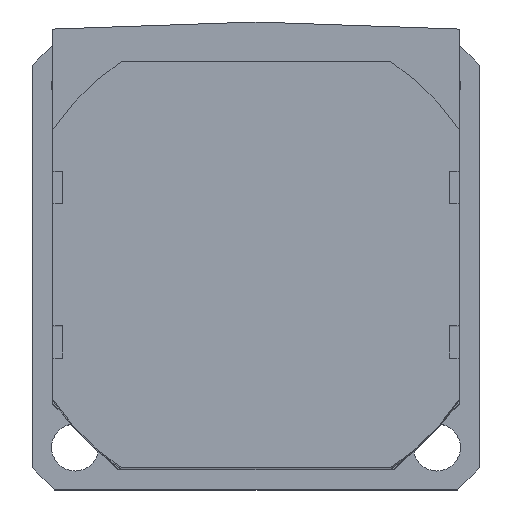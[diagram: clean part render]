
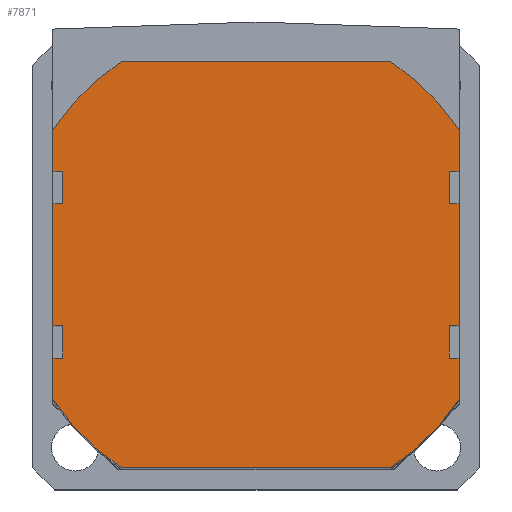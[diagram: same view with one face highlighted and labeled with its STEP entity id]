
A CAD part, top view. The second image highlights one B-rep face of the part: STEP entity #7871.
In plain terms, the highlighted planar face has unit normal (0, 0, 1).
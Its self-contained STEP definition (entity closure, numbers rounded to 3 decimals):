
#1866=LINE('',#11403,#9438);
#1867=LINE('',#11406,#9439);
#1868=LINE('',#11408,#9440);
#1869=LINE('',#11410,#9441);
#1870=LINE('',#11414,#9442);
#1871=LINE('',#11418,#9443);
#1872=LINE('',#11420,#9444);
#1873=LINE('',#11422,#9445);
#1874=LINE('',#11424,#9446);
#1875=LINE('',#11426,#9447);
#1876=LINE('',#11428,#9448);
#1877=LINE('',#11430,#9449);
#1878=LINE('',#11432,#9450);
#1879=LINE('',#11434,#9451);
#1880=LINE('',#11438,#9452);
#1881=LINE('',#11442,#9453);
#1882=LINE('',#11444,#9454);
#1883=LINE('',#11446,#9455);
#1884=LINE('',#11448,#9456);
#1885=LINE('',#11450,#9457);
#2583=VERTEX_POINT('',#11404);
#2584=VERTEX_POINT('',#11405);
#2585=VERTEX_POINT('',#11407);
#2586=VERTEX_POINT('',#11409);
#2587=VERTEX_POINT('',#11411);
#2588=VERTEX_POINT('',#11413);
#2589=VERTEX_POINT('',#11415);
#2590=VERTEX_POINT('',#11417);
#2591=VERTEX_POINT('',#11419);
#2592=VERTEX_POINT('',#11421);
#2593=VERTEX_POINT('',#11423);
#2594=VERTEX_POINT('',#11425);
#2595=VERTEX_POINT('',#11427);
#2596=VERTEX_POINT('',#11429);
#2597=VERTEX_POINT('',#11431);
#2598=VERTEX_POINT('',#11433);
#2599=VERTEX_POINT('',#11435);
#2600=VERTEX_POINT('',#11437);
#2601=VERTEX_POINT('',#11439);
#2602=VERTEX_POINT('',#11441);
#2603=VERTEX_POINT('',#11443);
#2604=VERTEX_POINT('',#11445);
#2605=VERTEX_POINT('',#11447);
#2606=VERTEX_POINT('',#11449);
#3202=CIRCLE('',#8530,30.);
#3203=CIRCLE('',#8531,30.);
#3204=CIRCLE('',#8532,30.);
#3205=CIRCLE('',#8533,30.);
#3804=EDGE_CURVE('',#2583,#2584,#1866,.T.);
#3805=EDGE_CURVE('',#2585,#2583,#1867,.T.);
#3806=EDGE_CURVE('',#2586,#2585,#1868,.T.);
#3807=EDGE_CURVE('',#2587,#2586,#1869,.T.);
#3808=EDGE_CURVE('',#2588,#2587,#3202,.T.);
#3809=EDGE_CURVE('',#2589,#2588,#1870,.T.);
#3810=EDGE_CURVE('',#2590,#2589,#3203,.T.);
#3811=EDGE_CURVE('',#2591,#2590,#1871,.T.);
#3812=EDGE_CURVE('',#2592,#2591,#1872,.T.);
#3813=EDGE_CURVE('',#2593,#2592,#1873,.T.);
#3814=EDGE_CURVE('',#2594,#2593,#1874,.T.);
#3815=EDGE_CURVE('',#2595,#2594,#1875,.T.);
#3816=EDGE_CURVE('',#2596,#2595,#1876,.T.);
#3817=EDGE_CURVE('',#2597,#2596,#1877,.T.);
#3818=EDGE_CURVE('',#2598,#2597,#1878,.T.);
#3819=EDGE_CURVE('',#2599,#2598,#1879,.T.);
#3820=EDGE_CURVE('',#2600,#2599,#3204,.T.);
#3821=EDGE_CURVE('',#2601,#2600,#1880,.T.);
#3822=EDGE_CURVE('',#2602,#2601,#3205,.T.);
#3823=EDGE_CURVE('',#2603,#2602,#1881,.T.);
#3824=EDGE_CURVE('',#2604,#2603,#1882,.T.);
#3825=EDGE_CURVE('',#2605,#2604,#1883,.T.);
#3826=EDGE_CURVE('',#2606,#2605,#1884,.T.);
#3827=EDGE_CURVE('',#2584,#2606,#1885,.T.);
#5072=ORIENTED_EDGE('',*,*,#3804,.F.);
#5073=ORIENTED_EDGE('',*,*,#3805,.F.);
#5074=ORIENTED_EDGE('',*,*,#3806,.F.);
#5075=ORIENTED_EDGE('',*,*,#3807,.F.);
#5076=ORIENTED_EDGE('',*,*,#3808,.F.);
#5077=ORIENTED_EDGE('',*,*,#3809,.F.);
#5078=ORIENTED_EDGE('',*,*,#3810,.F.);
#5079=ORIENTED_EDGE('',*,*,#3811,.F.);
#5080=ORIENTED_EDGE('',*,*,#3812,.F.);
#5081=ORIENTED_EDGE('',*,*,#3813,.F.);
#5082=ORIENTED_EDGE('',*,*,#3814,.F.);
#5083=ORIENTED_EDGE('',*,*,#3815,.F.);
#5084=ORIENTED_EDGE('',*,*,#3816,.F.);
#5085=ORIENTED_EDGE('',*,*,#3817,.F.);
#5086=ORIENTED_EDGE('',*,*,#3818,.F.);
#5087=ORIENTED_EDGE('',*,*,#3819,.F.);
#5088=ORIENTED_EDGE('',*,*,#3820,.F.);
#5089=ORIENTED_EDGE('',*,*,#3821,.F.);
#5090=ORIENTED_EDGE('',*,*,#3822,.F.);
#5091=ORIENTED_EDGE('',*,*,#3823,.F.);
#5092=ORIENTED_EDGE('',*,*,#3824,.F.);
#5093=ORIENTED_EDGE('',*,*,#3825,.F.);
#5094=ORIENTED_EDGE('',*,*,#3826,.F.);
#5095=ORIENTED_EDGE('',*,*,#3827,.F.);
#6781=EDGE_LOOP('',(#5072,#5073,#5074,#5075,#5076,#5077,#5078,#5079,#5080,
#5081,#5082,#5083,#5084,#5085,#5086,#5087,#5088,#5089,#5090,#5091,#5092,
#5093,#5094,#5095));
#7338=FACE_BOUND('',#6781,.T.);
#7871=ADVANCED_FACE('',(#7338),#9887,.T.);
#8529=AXIS2_PLACEMENT_3D('',#11402,#14628,$);
#8530=AXIS2_PLACEMENT_3D('',#11412,#14633,#14634);
#8531=AXIS2_PLACEMENT_3D('',#11416,#14636,#14637);
#8532=AXIS2_PLACEMENT_3D('',#11436,#14647,#14648);
#8533=AXIS2_PLACEMENT_3D('',#11440,#14650,#14651);
#9438=VECTOR('',#14629,1.);
#9439=VECTOR('',#14630,1.);
#9440=VECTOR('',#14631,1.);
#9441=VECTOR('',#14632,1.);
#9442=VECTOR('',#14635,1.);
#9443=VECTOR('',#14638,1.);
#9444=VECTOR('',#14639,1.);
#9445=VECTOR('',#14640,1.);
#9446=VECTOR('',#14641,1.);
#9447=VECTOR('',#14642,1.);
#9448=VECTOR('',#14643,1.);
#9449=VECTOR('',#14644,1.);
#9450=VECTOR('',#14645,1.);
#9451=VECTOR('',#14646,1.);
#9452=VECTOR('',#14649,1.);
#9453=VECTOR('',#14652,1.);
#9454=VECTOR('',#14653,1.);
#9455=VECTOR('',#14654,1.);
#9456=VECTOR('',#14655,1.);
#9457=VECTOR('',#14656,1.);
#9887=PLANE('',#8529);
#11402=CARTESIAN_POINT('',(0.,0.,73.5));
#11403=CARTESIAN_POINT('',(23.8,7.5,73.5));
#11404=CARTESIAN_POINT('',(23.8,7.5,73.5));
#11405=CARTESIAN_POINT('',(25.,7.5,73.5));
#11406=CARTESIAN_POINT('',(23.8,11.5,73.5));
#11407=CARTESIAN_POINT('',(23.8,11.5,73.5));
#11408=CARTESIAN_POINT('',(25.,11.5,73.5));
#11409=CARTESIAN_POINT('',(25.,11.5,73.5));
#11410=CARTESIAN_POINT('',(25.,16.583,73.5));
#11411=CARTESIAN_POINT('',(25.,16.583,73.5));
#11412=CARTESIAN_POINT('',(0.,0.,73.5));
#11413=CARTESIAN_POINT('',(16.583,25.,73.5));
#11414=CARTESIAN_POINT('',(-16.583,25.,73.5));
#11415=CARTESIAN_POINT('',(-16.583,25.,73.5));
#11416=CARTESIAN_POINT('',(0.,0.,73.5));
#11417=CARTESIAN_POINT('',(-25.,16.583,73.5));
#11418=CARTESIAN_POINT('',(-25.,11.5,73.5));
#11419=CARTESIAN_POINT('',(-25.,11.5,73.5));
#11420=CARTESIAN_POINT('',(-23.8,11.5,73.5));
#11421=CARTESIAN_POINT('',(-23.8,11.5,73.5));
#11422=CARTESIAN_POINT('',(-23.8,7.5,73.5));
#11423=CARTESIAN_POINT('',(-23.8,7.5,73.5));
#11424=CARTESIAN_POINT('',(-25.,7.5,73.5));
#11425=CARTESIAN_POINT('',(-25.,7.5,73.5));
#11426=CARTESIAN_POINT('',(-25.,-7.5,73.5));
#11427=CARTESIAN_POINT('',(-25.,-7.5,73.5));
#11428=CARTESIAN_POINT('',(-23.8,-7.5,73.5));
#11429=CARTESIAN_POINT('',(-23.8,-7.5,73.5));
#11430=CARTESIAN_POINT('',(-23.8,-11.5,73.5));
#11431=CARTESIAN_POINT('',(-23.8,-11.5,73.5));
#11432=CARTESIAN_POINT('',(-25.,-11.5,73.5));
#11433=CARTESIAN_POINT('',(-25.,-11.5,73.5));
#11434=CARTESIAN_POINT('',(-25.,-16.583,73.5));
#11435=CARTESIAN_POINT('',(-25.,-16.583,73.5));
#11436=CARTESIAN_POINT('',(0.,0.,73.5));
#11437=CARTESIAN_POINT('',(-16.583,-25.,73.5));
#11438=CARTESIAN_POINT('',(16.583,-25.,73.5));
#11439=CARTESIAN_POINT('',(16.583,-25.,73.5));
#11440=CARTESIAN_POINT('',(0.,0.,73.5));
#11441=CARTESIAN_POINT('',(25.,-16.583,73.5));
#11442=CARTESIAN_POINT('',(25.,-11.5,73.5));
#11443=CARTESIAN_POINT('',(25.,-11.5,73.5));
#11444=CARTESIAN_POINT('',(23.8,-11.5,73.5));
#11445=CARTESIAN_POINT('',(23.8,-11.5,73.5));
#11446=CARTESIAN_POINT('',(23.8,-7.5,73.5));
#11447=CARTESIAN_POINT('',(23.8,-7.5,73.5));
#11448=CARTESIAN_POINT('',(25.,-7.5,73.5));
#11449=CARTESIAN_POINT('',(25.,-7.5,73.5));
#11450=CARTESIAN_POINT('',(25.,7.5,73.5));
#14628=DIRECTION('',(0.,0.,1.));
#14629=DIRECTION('',(1.,0.,0.));
#14630=DIRECTION('',(0.,-1.,0.));
#14631=DIRECTION('',(-1.,0.,0.));
#14632=DIRECTION('',(0.,-1.,0.));
#14633=DIRECTION('',(0.,0.,-1.));
#14634=DIRECTION('',(30.,0.,0.));
#14635=DIRECTION('',(1.,0.,0.));
#14636=DIRECTION('',(0.,0.,-1.));
#14637=DIRECTION('',(30.,0.,0.));
#14638=DIRECTION('',(0.,1.,0.));
#14639=DIRECTION('',(-1.,0.,0.));
#14640=DIRECTION('',(0.,1.,0.));
#14641=DIRECTION('',(1.,0.,0.));
#14642=DIRECTION('',(0.,1.,0.));
#14643=DIRECTION('',(-1.,0.,0.));
#14644=DIRECTION('',(0.,1.,0.));
#14645=DIRECTION('',(1.,0.,0.));
#14646=DIRECTION('',(0.,1.,0.));
#14647=DIRECTION('',(0.,0.,-1.));
#14648=DIRECTION('',(30.,0.,0.));
#14649=DIRECTION('',(-1.,0.,0.));
#14650=DIRECTION('',(0.,0.,-1.));
#14651=DIRECTION('',(30.,0.,0.));
#14652=DIRECTION('',(0.,-1.,0.));
#14653=DIRECTION('',(1.,0.,0.));
#14654=DIRECTION('',(0.,-1.,0.));
#14655=DIRECTION('',(-1.,0.,0.));
#14656=DIRECTION('',(0.,-1.,0.));
